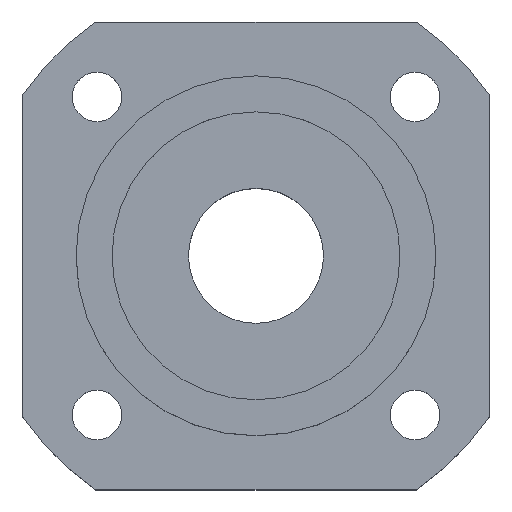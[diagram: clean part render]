
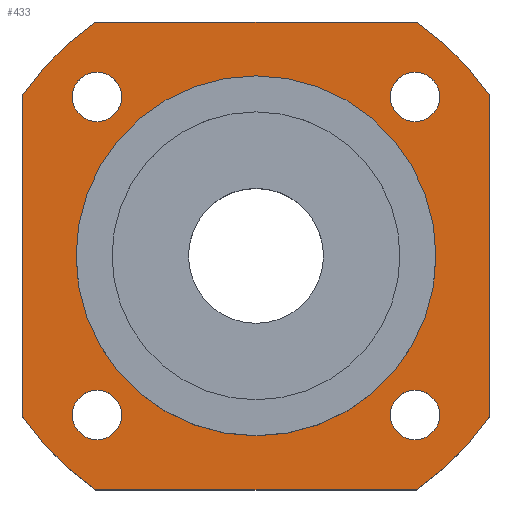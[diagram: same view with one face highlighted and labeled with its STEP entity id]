
A CAD part, top view. The second image highlights one B-rep face of the part: STEP entity #433.
In plain terms, the highlighted planar face has unit normal (0, 0, 1).
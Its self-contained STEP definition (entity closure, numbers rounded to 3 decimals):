
#16=LINE($,#720,#32);
#20=LINE($,#732,#36);
#24=LINE($,#744,#40);
#28=LINE($,#754,#44);
#32=VECTOR($,#598,35.567);
#36=VECTOR($,#610,35.567);
#40=VECTOR($,#622,35.567);
#44=VECTOR($,#634,35.567);
#56=PLANE($,#497);
#80=FACE_BOUND($,#162,.T.);
#81=FACE_BOUND($,#163,.T.);
#82=FACE_BOUND($,#164,.T.);
#83=FACE_BOUND($,#165,.T.);
#84=FACE_BOUND($,#166,.T.);
#85=FACE_BOUND($,#167,.T.);
#162=EDGE_LOOP($,(#364));
#163=EDGE_LOOP($,(#365));
#164=EDGE_LOOP($,(#366));
#165=EDGE_LOOP($,(#367));
#166=EDGE_LOOP($,(#368));
#167=EDGE_LOOP($,(#369,#370,#371,#372,#373,#374,#375,#376));
#183=CIRCLE($,#455,2.75);
#187=CIRCLE($,#462,2.75);
#191=CIRCLE($,#469,2.75);
#195=CIRCLE($,#476,2.75);
#197=CIRCLE($,#479,20.);
#199=CIRCLE($,#483,31.5);
#201=CIRCLE($,#487,31.5);
#203=CIRCLE($,#491,31.5);
#205=CIRCLE($,#495,31.5);
#215=VERTEX_POINT($,#666);
#219=VERTEX_POINT($,#677);
#223=VERTEX_POINT($,#688);
#227=VERTEX_POINT($,#699);
#229=VERTEX_POINT($,#704);
#232=VERTEX_POINT($,#711);
#233=VERTEX_POINT($,#713);
#235=VERTEX_POINT($,#719);
#237=VERTEX_POINT($,#725);
#239=VERTEX_POINT($,#731);
#241=VERTEX_POINT($,#737);
#243=VERTEX_POINT($,#743);
#245=VERTEX_POINT($,#749);
#255=EDGE_CURVE($,#215,#215,#183,.T.);
#259=EDGE_CURVE($,#219,#219,#187,.T.);
#263=EDGE_CURVE($,#223,#223,#191,.T.);
#267=EDGE_CURVE($,#227,#227,#195,.T.);
#269=EDGE_CURVE($,#229,#229,#197,.T.);
#272=EDGE_CURVE($,#233,#232,#199,.T.);
#275=EDGE_CURVE($,#235,#233,#16,.T.);
#278=EDGE_CURVE($,#237,#235,#201,.T.);
#281=EDGE_CURVE($,#239,#237,#20,.T.);
#284=EDGE_CURVE($,#241,#239,#203,.T.);
#287=EDGE_CURVE($,#243,#241,#24,.T.);
#290=EDGE_CURVE($,#245,#243,#205,.T.);
#293=EDGE_CURVE($,#232,#245,#28,.T.);
#364=ORIENTED_EDGE($,*,*,#255,.T.);
#365=ORIENTED_EDGE($,*,*,#259,.T.);
#366=ORIENTED_EDGE($,*,*,#263,.T.);
#367=ORIENTED_EDGE($,*,*,#267,.T.);
#368=ORIENTED_EDGE($,*,*,#269,.T.);
#369=ORIENTED_EDGE($,*,*,#293,.T.);
#370=ORIENTED_EDGE($,*,*,#290,.T.);
#371=ORIENTED_EDGE($,*,*,#287,.T.);
#372=ORIENTED_EDGE($,*,*,#284,.T.);
#373=ORIENTED_EDGE($,*,*,#281,.T.);
#374=ORIENTED_EDGE($,*,*,#278,.T.);
#375=ORIENTED_EDGE($,*,*,#275,.T.);
#376=ORIENTED_EDGE($,*,*,#272,.T.);
#433=ADVANCED_FACE($,(#80,#81,#82,#83,#84,#85),#56,.T.);
#455=AXIS2_PLACEMENT_3D($,#667,#535,#536);
#462=AXIS2_PLACEMENT_3D($,#678,#549,#550);
#469=AXIS2_PLACEMENT_3D($,#689,#563,#564);
#476=AXIS2_PLACEMENT_3D($,#700,#577,#578);
#479=AXIS2_PLACEMENT_3D($,#705,#583,#584);
#483=AXIS2_PLACEMENT_3D($,#714,#592,#593);
#487=AXIS2_PLACEMENT_3D($,#726,#604,#605);
#491=AXIS2_PLACEMENT_3D($,#738,#616,#617);
#495=AXIS2_PLACEMENT_3D($,#750,#628,#629);
#497=AXIS2_PLACEMENT_3D($,#755,#635,#636);
#535=DIRECTION('center_axis',(0.,0.,-1.));
#536=DIRECTION('ref_axis',(-1.,0.,0.));
#549=DIRECTION('center_axis',(0.,0.,-1.));
#550=DIRECTION('ref_axis',(-1.,0.,0.));
#563=DIRECTION('center_axis',(0.,0.,-1.));
#564=DIRECTION('ref_axis',(-1.,0.,0.));
#577=DIRECTION('center_axis',(0.,0.,-1.));
#578=DIRECTION('ref_axis',(-1.,0.,0.));
#583=DIRECTION('center_axis',(0.,0.,-1.));
#584=DIRECTION('ref_axis',(-1.,0.,0.));
#592=DIRECTION('center_axis',(0.,0.,1.));
#593=DIRECTION('ref_axis',(-0.565,0.825,0.));
#598=DIRECTION($,(-1.,0.,0.));
#604=DIRECTION('center_axis',(0.,0.,1.));
#605=DIRECTION('ref_axis',(0.825,0.565,0.));
#610=DIRECTION($,(0.,1.,0.));
#616=DIRECTION('center_axis',(0.,0.,1.));
#617=DIRECTION('ref_axis',(0.565,-0.825,0.));
#622=DIRECTION($,(1.,0.,0.));
#628=DIRECTION('center_axis',(0.,0.,1.));
#629=DIRECTION('ref_axis',(-0.825,-0.565,0.));
#634=DIRECTION($,(0.,-1.,0.));
#635=DIRECTION('center_axis',(0.,0.,1.));
#636=DIRECTION('ref_axis',(1.,0.,0.));
#666=CARTESIAN_POINT('',(-14.928,-17.678,9.));
#667=CARTESIAN_POINT('Origin',(-17.678,-17.678,9.));
#677=CARTESIAN_POINT('',(20.428,17.678,9.));
#678=CARTESIAN_POINT('Origin',(17.678,17.678,9.));
#688=CARTESIAN_POINT('',(20.428,-17.678,9.));
#689=CARTESIAN_POINT('Origin',(17.678,-17.678,9.));
#699=CARTESIAN_POINT('',(-14.928,17.678,9.));
#700=CARTESIAN_POINT('Origin',(-17.678,17.678,9.));
#704=CARTESIAN_POINT('',(20.,0.,9.));
#705=CARTESIAN_POINT('Origin',(0.,0.,9.));
#711=CARTESIAN_POINT('',(-26.,17.783,9.));
#713=CARTESIAN_POINT('',(-17.783,26.,9.));
#714=CARTESIAN_POINT('Origin',(0.,0.,9.));
#719=CARTESIAN_POINT('',(17.783,26.,9.));
#720=CARTESIAN_POINT($,(17.783,26.,9.));
#725=CARTESIAN_POINT('',(26.,17.783,9.));
#726=CARTESIAN_POINT('Origin',(0.,0.,9.));
#731=CARTESIAN_POINT('',(26.,-17.783,9.));
#732=CARTESIAN_POINT($,(26.,-17.783,9.));
#737=CARTESIAN_POINT('',(17.783,-26.,9.));
#738=CARTESIAN_POINT('Origin',(0.,0.,9.));
#743=CARTESIAN_POINT('',(-17.783,-26.,9.));
#744=CARTESIAN_POINT($,(-17.783,-26.,9.));
#749=CARTESIAN_POINT('',(-26.,-17.783,9.));
#750=CARTESIAN_POINT('Origin',(0.,0.,9.));
#754=CARTESIAN_POINT($,(-26.,17.783,9.));
#755=CARTESIAN_POINT('Origin',(0.,0.,
9.));
